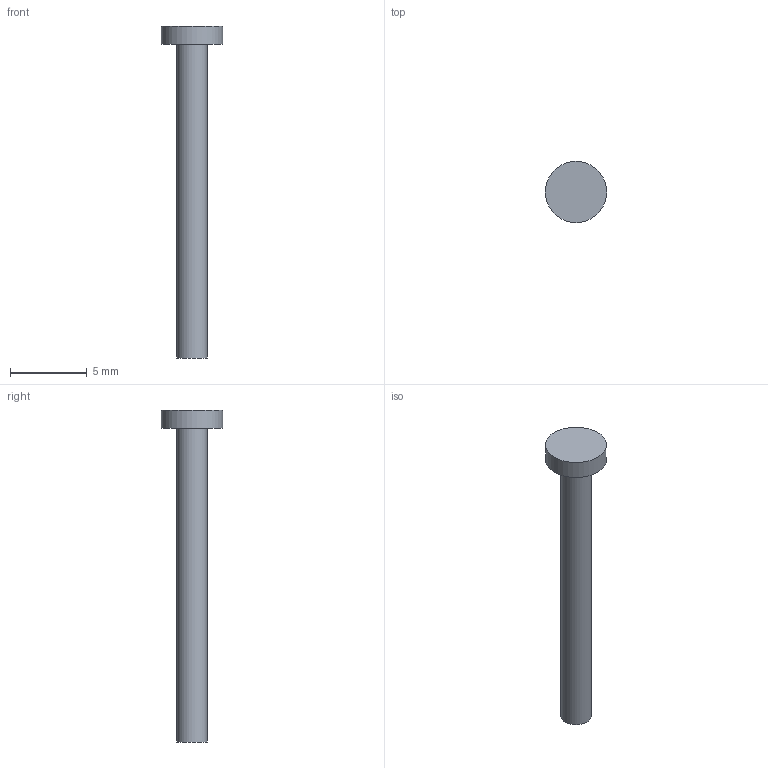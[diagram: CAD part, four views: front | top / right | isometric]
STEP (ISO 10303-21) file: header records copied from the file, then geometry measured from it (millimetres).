
FILE_DESCRIPTION(('Open CASCADE Model'),'2;1');
FILE_NAME('M2 fastener H4','2026-11-12T07:10:08',('Author'),( 'Open CASCADE'),'Open CASCADE STEP processor 7.8','build123d', 'Unknown');
FILE_SCHEMA(('AUTOMOTIVE_DESIGN { 1 0 10303 214 1 1 1 1 }'));
Length unit declared in the file: millimetre
Products named in the file (1): M2 fastener H4
Bounding box: 4 x 4 x 21.7 mm (x, y, z)
Volume: 79.5 mm3; surface area: 169 mm2
Topology: 1 solids, 1 shells, 5 faces, 6 edges, 4 vertices
Faces by surface type: plane 3, cylinder 2
Full cylindrical faces by diameter (mm): 2 x1, 4 x1
Entity records: 201 total; most frequent: DIRECTION 34, CARTESIAN_POINT 28, ORIENTED_EDGE 12, PCURVE 12, DEFINITIONAL_REPRESENTATION 12, AXIS2_PLACEMENT_3D 10, LINE 10, VECTOR 10
